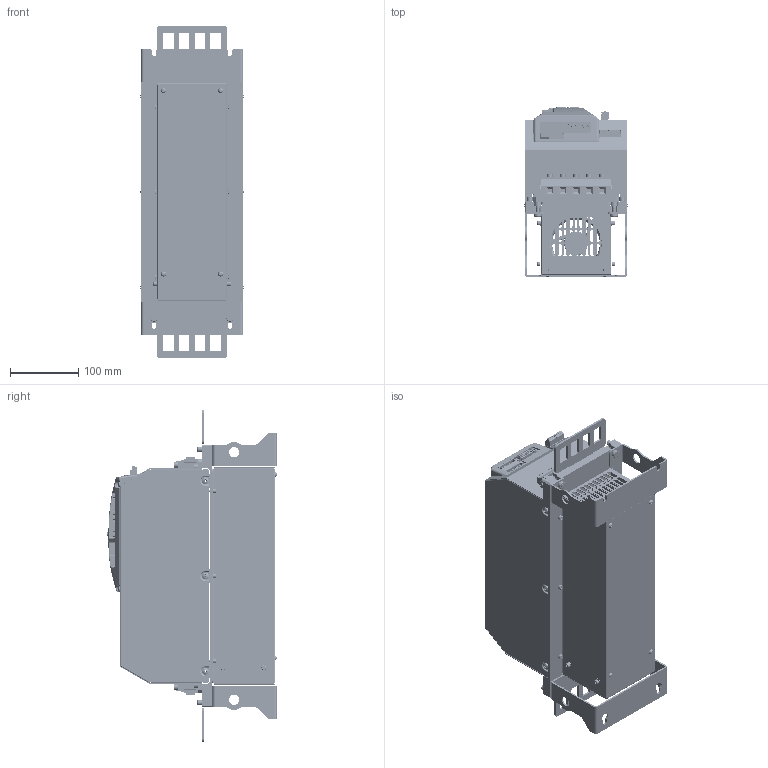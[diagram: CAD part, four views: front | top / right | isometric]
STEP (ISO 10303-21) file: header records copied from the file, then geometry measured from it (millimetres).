
FILE_DESCRIPTION((''),'2;1');
FILE_NAME('PRT0008','2015-11-09T',('hegenwang'),(''),'PRO/ENGINEER BY PARAMETRIC TECHNOLOGY CORPORATION, 2010430','PRO/ENGINEER BY PARAMETRIC TECHNOLOGY CORPORATION, 2010430','');
FILE_SCHEMA(('AUTOMOTIVE_DESIGN_CC2 { 1 2 10303 214 -1 1 5 2 }'));
Products named in the file (1): PRT0008
Bounding box: 151.89 x 249.21 x 488 mm (x, y, z)
Surface area: 1677537.9 mm2 (no closed solid volume)
Topology: 0 solids, 1604 shells, 10334 faces, 43452 edges, 33913 vertices
Faces by surface type: plane 7021, cylinder 2650, cone 275, torus 256, sphere 81, bspline 51
Entity records: 584218 total; most frequent: CARTESIAN_POINT 114879, DIRECTION 65357, ORIENTED_EDGE 60810, EDGE_CURVE 43423, PRESENTATION_STYLE_ASSIGNMENT 39919, STYLED_ITEM 39497, CURVE_STYLE 37882, VERTEX_POINT 33909
